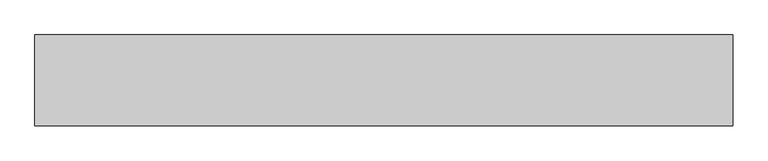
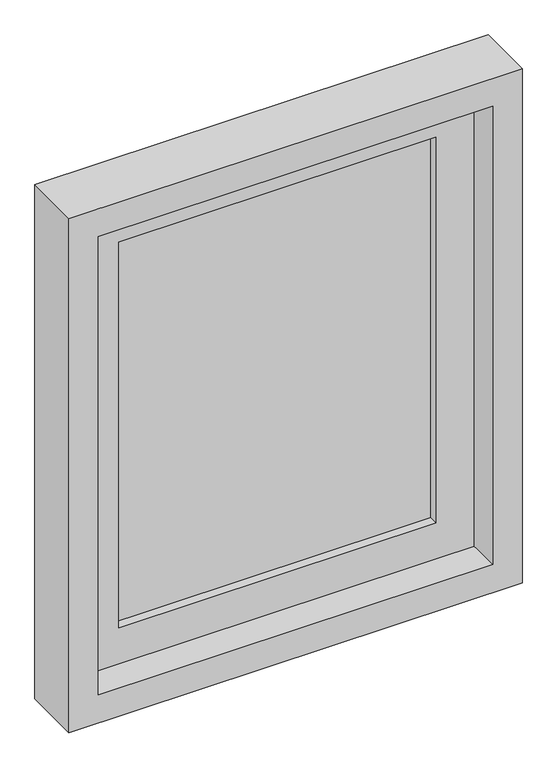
"""IFC4 building model written with IfcOpenShell, lengths in millimetres: proxy geometry, Renson_Fixvent_Window_SimpleFrame_Gen - L : Renson_Fixvent_Window_SimpleFrame_Gen."""

from ifc_helpers import new_model, si_unit, frame, origin, place, context, project, spatial, polyline, outline, extrude, faceted_brep, source, transform, mapped, element, save


def generic_models_e17e140e(model_context):
    return source(origin(), model_context, "Body", "SolidModel", [
        extrude(outline(polyline([(2055.0, 500.0), (2055.0, -500.0), (855.0, -500.0), (855.0, 500.0), (2055.0, 500.0)]), holes=[polyline([(920.0, 435.0), (920.0, -435.0), (1990.0, -435.0), (1990.0, 435.0), (920.0, 435.0)])]), frame((0.0, 0.0, 0.0), z_axis=(0.0, 1.0, 0.0), x_axis=(0.0, 0.0, 1.0)), (0.0, 0.0, 1.0), 130.0),
        extrude(outline(polyline([(1925.0, -370.0), (985.0, -370.0), (985.0, 370.0), (1925.0, 370.0), (1925.0, -370.0)]), holes=[polyline([(1905.0, 350.0), (1005.0, 350.0), (1005.0, -350.0), (1905.0, -350.0), (1905.0, 350.0)])]), frame((0.0, 110.0, 0.0), z_axis=(0.0, 1.0, 0.0), x_axis=(0.0, 0.0, 1.0)), (0.0, 0.0, 1.0), 20.0),
        extrude(outline(polyline([(370.0, 90.0), (-370.0, 90.0), (-370.0, 110.0), (370.0, 110.0), (370.0, 90.0)])), frame((0.0, 0.0, 985.0), z_axis=(0.0, 0.0, 1.0), x_axis=(1.0, 0.0, 0.0)), (0.0, 0.0, 1.0), 940.0),
        faceted_brep([(-370.0, 90.0, 1925.0), (-370.0, 130.0, 1925.0), (370.0, 130.0, 1925.0), (370.0, 90.0, 1925.0), (-350.0, 70.0, 1905.0), (-350.0, 90.0, 1905.0), (350.0, 90.0, 1905.0), (350.0, 70.0, 1905.0), (-435.0, 130.0, 1990.0), (-435.0, 70.0, 1990.0), (435.0, 70.0, 1990.0), (435.0, 130.0, 1990.0), (370.0, 130.0, 985.0), (370.0, 90.0, 985.0), (350.0, 90.0, 1005.0), (350.0, 70.0, 1005.0), (435.0, 70.0, 920.0), (435.0, 130.0, 920.0), (-370.0, 130.0, 985.0), (-370.0, 90.0, 985.0), (-350.0, 90.0, 1005.0), (-350.0, 70.0, 1005.0), (-435.0, 70.0, 920.0), (-435.0, 130.0, 920.0)], [[[0, 1, 2, 3]], [[4, 5, 6, 7]], [[8, 9, 10, 11]], [[3, 2, 12, 13]], [[7, 6, 14, 15]], [[11, 10, 16, 17]], [[13, 12, 18, 19]], [[15, 14, 20, 21]], [[17, 16, 22, 23]], [[11, 17, 23, 8], [1, 18, 12, 2]], [[19, 18, 1, 0]], [[3, 13, 19, 0], [5, 20, 14, 6]], [[21, 20, 5, 4]], [[9, 22, 16, 10], [7, 15, 21, 4]], [[23, 22, 9, 8]]]),
    ])


if __name__ == "__main__":
    model = new_model("IFC4")
    model_context = context("Model", 3, world=origin())
    ifc_project = project(units=[si_unit("LENGTHUNIT", "METRE", prefix="MILLI")], contexts=[model_context])
    site = spatial("IfcSite", under=ifc_project)
    building = spatial("IfcBuilding", under=site)
    placement = place(None, origin())
    generic_models_shape = generic_models_e17e140e(model_context)
    element("IfcBuildingElementProxy", 1, Name="Renson_Fixvent_Window_SimpleFrame_Gen - L : Renson_Fixvent_Window_SimpleFrame_Gen", ObjectType="Renson_Fixvent_Window_SimpleFrame_Gen - L : Renson_Fixvent_Window_SimpleFrame_Gen", at=placement, inside=building, context=model_context, shape_type="MappedRepresentation", body=[
        mapped(generic_models_shape, transform((0.0, 0.0, 0.0), x_axis=(1.0, 0.0, 0.0), y_axis=(0.0, 1.0, 0.0), z_axis=(0.0, 0.0, 1.0))),
    ])
    save(model, "model.ifc")
